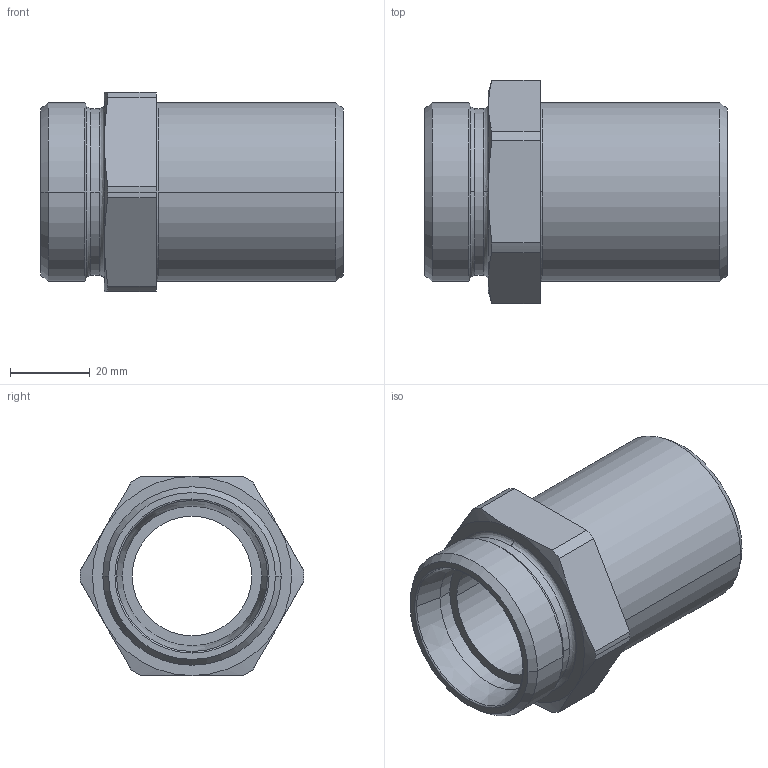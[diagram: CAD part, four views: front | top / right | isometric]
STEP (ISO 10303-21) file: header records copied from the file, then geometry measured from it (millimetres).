
FILE_DESCRIPTION((''),'2;1');
FILE_NAME('103612.stp','2007-10-31T11:40:01',(''),(''),'AutoCAD STEP 2000i','AutoCAD 2000i',', , ');
FILE_SCHEMA(('CONFIG_CONTROL_DESIGN'));
Length unit declared in the file: millimetre
Products named in the file (2): 103612.0; CHIAVE SMUSSX1036#0
Assembly tree (1 placements, depth 2):
  103612.0
    CHIAVE SMUSSX1036#0
Bounding box: 76 x 56.2 x 50 mm (x, y, z)
Volume: 65762 mm3; surface area: 21046 mm2
Topology: 1 solids, 1 shells, 58 faces, 144 edges, 92 vertices
Faces by surface type: cylinder 20, cone 16, plane 12, bspline 6, torus 4
Entity records: 2103 total; most frequent: CARTESIAN_POINT 584, DIRECTION 330, ORIENTED_EDGE 288, AXIS2_PLACEMENT_3D 144, EDGE_CURVE 144, VERTEX_POINT 92, CIRCLE 90, EDGE_LOOP 64
